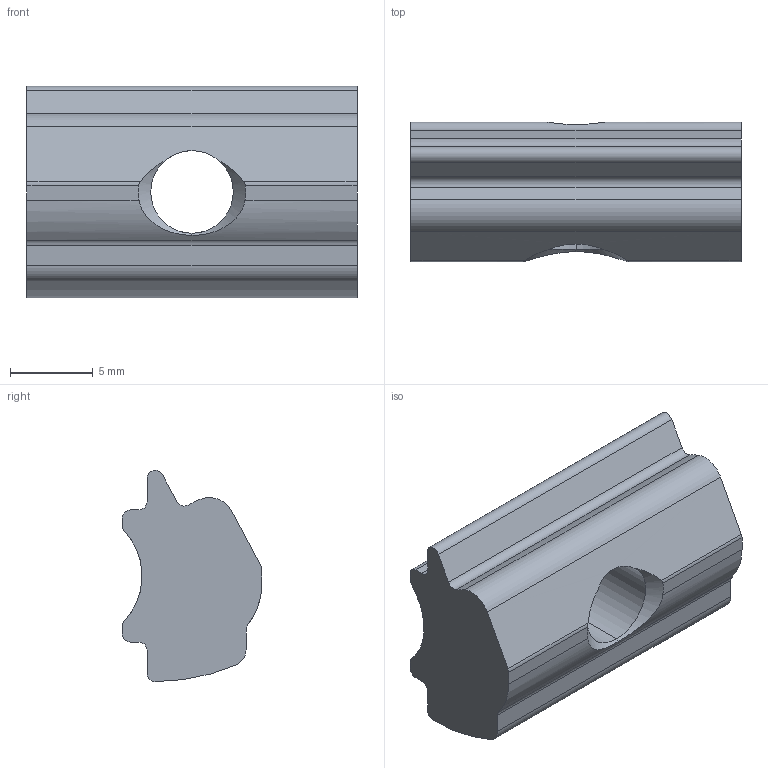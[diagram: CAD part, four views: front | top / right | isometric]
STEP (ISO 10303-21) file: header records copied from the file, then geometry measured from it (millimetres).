
FILE_DESCRIPTION((''),'2;1');
FILE_NAME('E:\端から修正\NAMT-08-5.stp','2013-11-07T16:21:25',('AMS8'),(''),'Autodesk Inventor 2008','Autodesk Inventor 2008','');
FILE_SCHEMA(('AUTOMOTIVE_DESIGN { 1 0 10303 214 1 1 1 1 }'));
Length unit declared in the file: millimetre
Products named in the file (2): DEFAULT; DEFAULTA
Assembly tree (1 placements, depth 2):
  DEFAULT
    DEFAULTA
Bounding box: 20 x 8.45 x 12.8 mm (x, y, z)
Volume: 1343.9 mm3; surface area: 964.9 mm2
Topology: 1 solids, 1 shells, 42 faces, 138 edges, 96 vertices
Faces by surface type: cylinder 23, plane 15, cone 4
Entity records: 1699 total; most frequent: CARTESIAN_POINT 444, ORIENTED_EDGE 276, DIRECTION 240, EDGE_CURVE 138, VERTEX_POINT 96, AXIS2_PLACEMENT_3D 89, VECTOR 62, LINE 62
